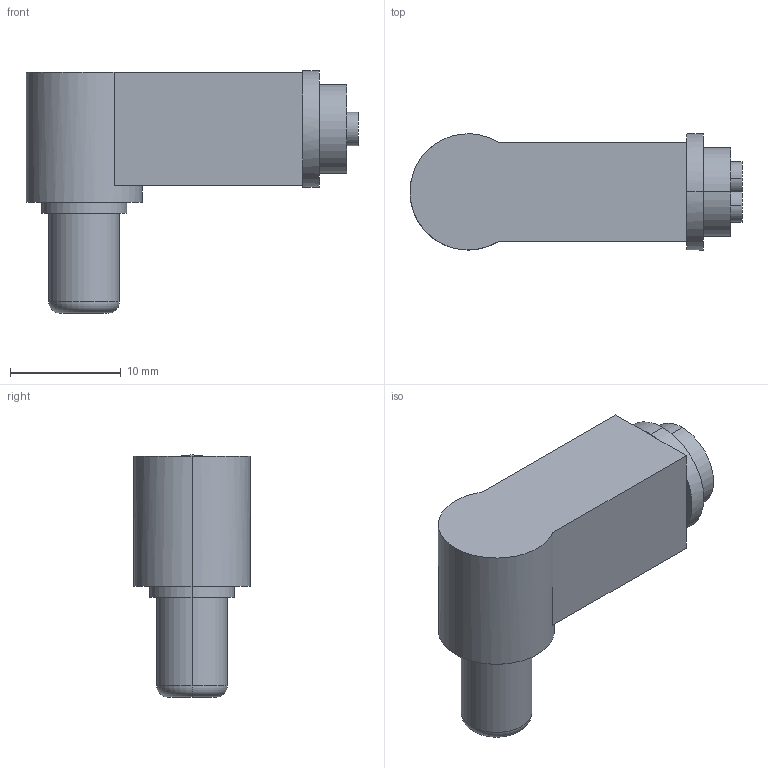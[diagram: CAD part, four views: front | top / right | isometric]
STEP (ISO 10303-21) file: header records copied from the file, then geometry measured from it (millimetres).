
FILE_DESCRIPTION (( 'STEP AP214' ), '1' );
FILE_NAME ('12v_plug.STEP', '2015-02-27T01:48:23', ( '' ), ( '' ), '', '', '' );
FILE_SCHEMA (( '' ));
Length unit declared in the file: millimetre
Products named in the file (1): 12v_plug
Bounding box: 30 x 10.5 x 21.88 mm (x, y, z)
Volume: 2993.8 mm3; surface area: 1560.9 mm2
Topology: 1 solids, 1 shells, 39 faces, 86 edges, 54 vertices
Faces by surface type: plane 19, cylinder 18, torus 2
Entity records: 1443 total; most frequent: DIRECTION 216, CARTESIAN_POINT 180, ORIENTED_EDGE 172, AXIS2_PLACEMENT_3D 90, EDGE_CURVE 86, VERTEX_POINT 54, CIRCLE 50, EDGE_LOOP 44
